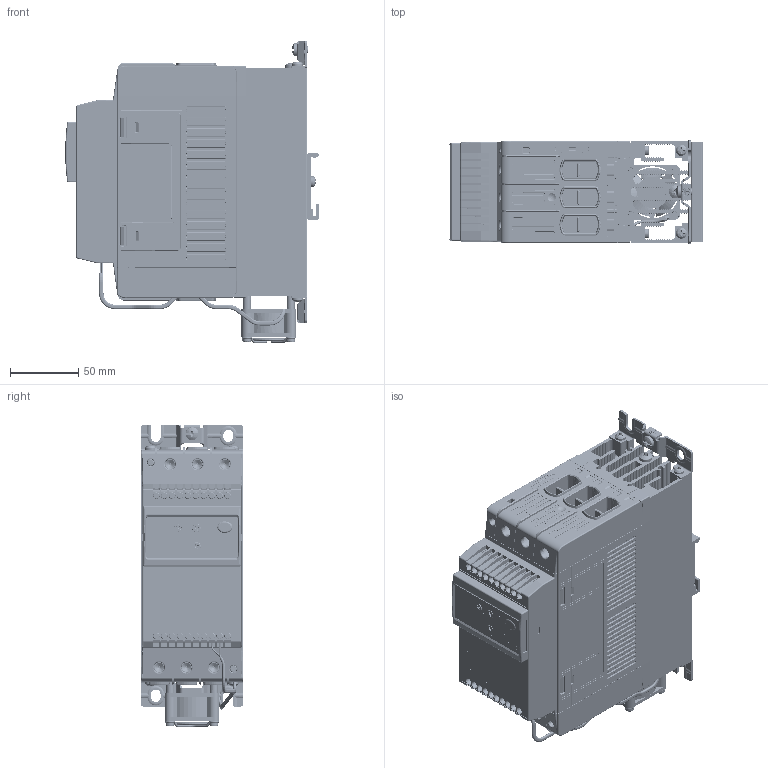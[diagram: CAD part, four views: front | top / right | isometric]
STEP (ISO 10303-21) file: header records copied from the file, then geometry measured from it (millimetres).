
FILE_DESCRIPTION(/* description */ (''),/* implementation_level */ '2;1');
FILE_NAME(/* name */ 'C:\HCGBackup11\Projects\RSGT\Official Drawings\Catalogue\75mm\3D\stp\CGI1569-00-3D.stp',/* time_stamp */ '2021-06-30T13:54:30+02:00',/* author */ ('thesil'),/* organization */ (''),/* preprocessor_version */ 'ST-DEVELOPER v18',/* originating_system */ 'AutoCAD Mechanical',/* authorisation */ '');
FILE_SCHEMA (('AUTOMOTIVE_DESIGN { 1 0 10303 214 3 1 1 }'));
Products named in the file (2): Product; CGI1569-00-3D
Assembly tree (1 placements, depth 2):
  Product
    CGI1569-00-3D
Bounding box: 185.42 x 75.2 x 220.95 mm (x, y, z)
Volume: 402153.1 mm3; surface area: 340178.3 mm2
Topology: 13 solids, 14 shells, 35038 faces, 102139 edges, 67599 vertices
Faces by surface type: plane 30758, cylinder 2865, bspline 906, torus 234, cone 207, sphere 68
Full cylindrical faces by diameter (mm): 1.2 x4, 1.7 x10, 3 x1, 3.6 x4, 4.3 x7, 4.35 x3, 4.9 x22, 5 x2, 5.2 x20, 6 x4, 6.2 x2, 6.4 x4, 6.75 x6, 7 x2, 7.5 x2, 8 x6, 9.5 x2, 13 x6, 38 x1
Entity records: 1172831 total; most frequent: CARTESIAN_POINT 244350, ORIENTED_EDGE 204168, DIRECTION 176628, EDGE_CURVE 102084, LINE 92512, VECTOR 92512, VERTEX_POINT 67611, AXIS2_PLACEMENT_3D 42058
